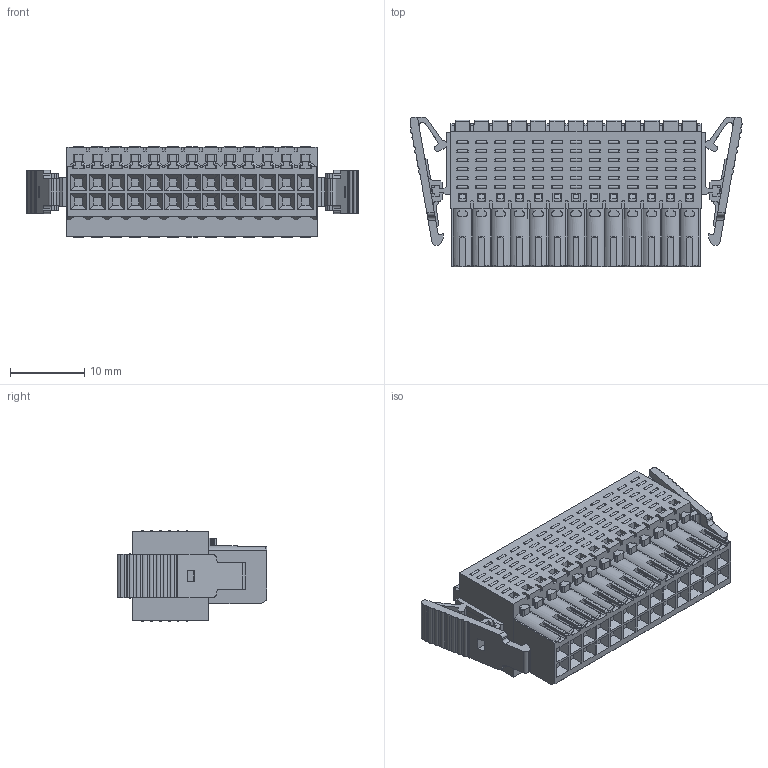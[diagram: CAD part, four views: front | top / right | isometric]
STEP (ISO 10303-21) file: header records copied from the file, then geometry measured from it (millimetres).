
FILE_DESCRIPTION((''),'2;1');
FILE_NAME('0156-1C26','2018-01-18T',('Rex.Song'),(''),'CREO PARAMETRIC BY PTC INC, 2016130','CREO PARAMETRIC BY PTC INC, 2016130','');
FILE_SCHEMA(('AUTOMOTIVE_DESIGN { 1 0 10303 214 1 1 1 1 }'));
Products named in the file (1): 0156-1C26
Bounding box: 44.58 x 20.1 x 12.14 mm (x, y, z)
Volume: 6101.2 mm3; surface area: 4646.1 mm2
Topology: 27 solids, 27 shells, 2822 faces, 7197 edges, 4706 vertices
Faces by surface type: plane 1640, cylinder 731, revolution 312, cone 104, torus 35
Entity records: 98867 total; most frequent: CARTESIAN_POINT 30313, ORIENTED_EDGE 14394, DIRECTION 13262, EDGE_CURVE 7197, VECTOR 4868, LINE 4868, VERTEX_POINT 4706, AXIS2_PLACEMENT_3D 4041
